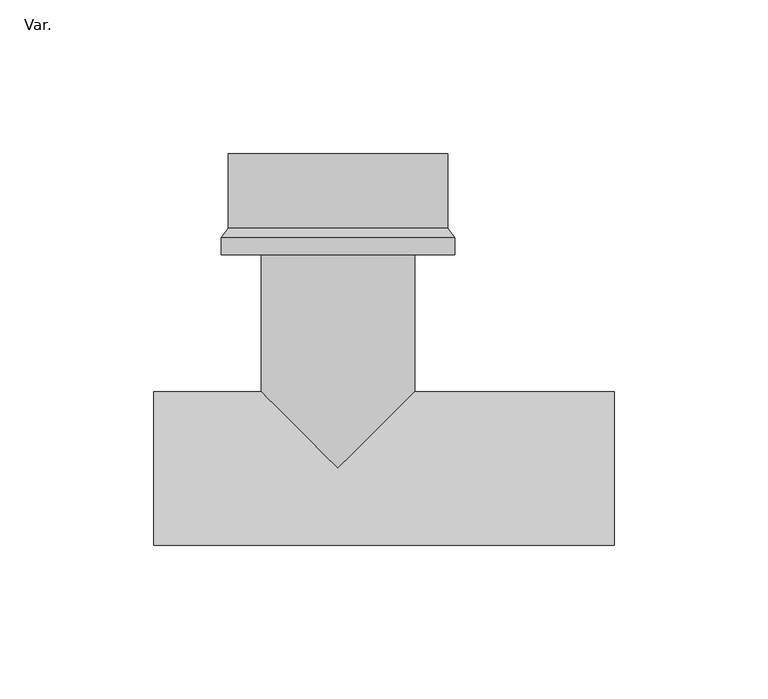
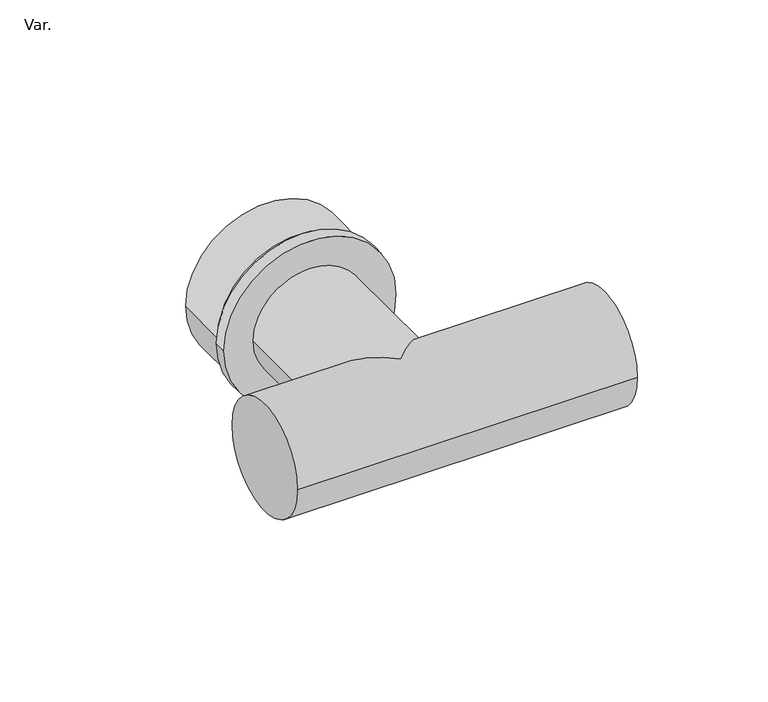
"""IFC4 building model written with IfcOpenShell, lengths in millimetres: pipe fitting geometry, NLRS_52_PIF_UN_HDPE cleanout branch_Akatherm : Var.."""

from ifc_helpers import new_model, si_unit, frame, origin, place, context, project, spatial, polyline, circle_curve, ellipse_curve, source, transform, mapped, element, save
from ifc_brep_helpers import plane_surface, cylinder_surface, revolved_surface, advanced_brep


def var_ad64e43e(model_context):
    return source(origin(), model_context, "Body", "AdvancedBrep", [
        advanced_brep(
        [(90.0, -25.0, 0.0), (90.0, 25.0, 0.0), (-60.0, -25.0, 0.0), (-60.0, 25.0, 0.0), (-25.0, 25.0, 0.0), (0.0, 0.0, -25.0), (25.0, 25.0, 0.0), (0.0, 0.0, 25.0), (25.0, 69.5, 0.0), (-25.0, 69.5, 0.0), (38.0, 69.5, 0.0), (-38.0, 69.5, 0.0), (38.0, 75.1, 0.0), (-38.0, 75.1, 0.0), (35.75, 78.2, 0.0), (-35.75, 78.2, 0.0), (35.75, 102.5, 0.0), (-35.75, 102.5, 0.0)],
        [
            (0, 1, circle_curve(frame((90.0, 0.0, 0.0), z_axis=(1.0, 0.0, 0.0), x_axis=(0.0, 1.0, 0.0)), 25.0)),
            (1, 0, circle_curve(frame((90.0, 0.0, 0.0), z_axis=(1.0, 0.0, 0.0), x_axis=(0.0, 1.0, 0.0)), 25.0)),
            (2, 3, circle_curve(frame((-60.0, 0.0, 0.0), z_axis=(-1.0, 0.0, 0.0), x_axis=(0.0, 1.0, 0.0)), 25.0)),
            (3, 2, circle_curve(frame((-60.0, 0.0, 0.0), z_axis=(-1.0, 0.0, 0.0), x_axis=(0.0, 1.0, 0.0)), 25.0)),
            (0, 2),
            (3, 4),
            (4, 5, ellipse_curve(frame((0.0, 0.0, 0.0), z_axis=(-0.707106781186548, -0.7071067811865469, 0.0), x_axis=(0.7071067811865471, -0.7071067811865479, 0.0)), 35.3553391, 25.0)),
            (5, 6, ellipse_curve(frame((0.0, 0.0, 0.0), z_axis=(0.7071067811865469, -0.707106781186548, 0.0), x_axis=(0.7071067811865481, 0.7071067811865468, 0.0)), 35.3553391, 25.0)),
            (6, 1),
            (6, 7, ellipse_curve(frame((0.0, 0.0, 0.0), z_axis=(0.7071067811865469, -0.707106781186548, 0.0), x_axis=(0.7071067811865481, 0.7071067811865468, 0.0)), 35.3553391, 25.0)),
            (7, 4, ellipse_curve(frame((0.0, 0.0, 0.0), z_axis=(-0.707106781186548, -0.7071067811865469, 0.0), x_axis=(0.7071067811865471, -0.7071067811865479, 0.0)), 35.3553391, 25.0)),
            (6, 8),
            (8, 9, circle_curve(frame((0.0, 69.5, 0.0), z_axis=(0.0, -1.0, 0.0), x_axis=(-1.0, 0.0, 0.0)), 25.0)),
            (9, 4),
            (9, 8, circle_curve(frame((0.0, 69.5, 0.0), z_axis=(0.0, -1.0, 0.0), x_axis=(-1.0, 0.0, 0.0)), 25.0)),
            (10, 11, circle_curve(frame((0.0, 69.5, 0.0), z_axis=(0.0, -1.0, 0.0), x_axis=(-1.0, 0.0, 0.0)), 38.0)),
            (11, 10, circle_curve(frame((0.0, 69.5, 0.0), z_axis=(0.0, -1.0, 0.0), x_axis=(-1.0, 0.0, 0.0)), 38.0)),
            (10, 12),
            (12, 13, circle_curve(frame((0.0, 75.1, 0.0), z_axis=(0.0, -1.0, 0.0), x_axis=(-1.0, 0.0, 0.0)), 38.0)),
            (13, 11),
            (13, 12, circle_curve(frame((0.0, 75.1, 0.0), z_axis=(0.0, -1.0, 0.0), x_axis=(-1.0, 0.0, 0.0)), 38.0)),
            (14, 12),
            (13, 15),
            (15, 14, circle_curve(frame((0.0, 78.2, 0.0), z_axis=(0.0, -1.0, 0.0), x_axis=(-1.0, 0.0, 0.0)), 35.75)),
            (14, 15, circle_curve(frame((0.0, 78.2, 0.0), z_axis=(0.0, -1.0, 0.0), x_axis=(1.0, 0.0, 0.0)), 35.75)),
            (16, 17, circle_curve(frame((0.0, 102.5, 0.0), z_axis=(0.0, 1.0, 0.0), x_axis=(-1.0, 0.0, 0.0)), 35.75)),
            (17, 16, circle_curve(frame((0.0, 102.5, 0.0), z_axis=(0.0, 1.0, 0.0), x_axis=(-1.0, 0.0, 0.0)), 35.75)),
            (17, 15),
            (14, 16),
        ],
        [
            plane_surface(frame((90.0, 25.0, 0.0), z_axis=(1.0, 0.0, 0.0), x_axis=(0.0, 0.0, 1.0))),
            plane_surface(frame((-60.0, 25.0, 0.0), z_axis=(-1.0, 0.0, 0.0), x_axis=(0.0, 0.0, -1.0))),
            cylinder_surface(frame((-60.0, 0.0, 0.0), z_axis=(1.0, 0.0, 0.0), x_axis=(0.0, 1.0, 0.0)), 25.0),
            cylinder_surface(frame((0.0, 0.0, 0.0), z_axis=(0.0, -1.0, 0.0), x_axis=(-1.0, 0.0, 0.0)), 25.0),
            plane_surface(frame((0.0, 69.5, 0.0), z_axis=(0.0, -1.0, 0.0), x_axis=(0.0, 0.0, 1.0))),
            cylinder_surface(frame((0.0, 69.5, 0.0), z_axis=(0.0, -1.0, 0.0), x_axis=(-1.0, 0.0, 0.0)), 38.0),
            revolved_surface(polyline([(35.75000000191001, 78.2, 0.0), (38.0, 75.1, 0.0)]), (0.0, 127.4555556, 0.0), (0.0, -1.0, 0.0)),
            plane_surface(frame((0.0, 102.5, 0.0), z_axis=(0.0, 1.0, 0.0), x_axis=(0.0, 0.0, 1.0))),
            cylinder_surface(frame((0.0, 78.2, 0.0), z_axis=(0.0, -1.0, 0.0), x_axis=(-1.0, 0.0, 0.0)), 35.75),
        ],
        [
            (0, [[1, 2]]),
            (1, [[3, 4]]),
            (2, [[-1, 5, -4, 6, 7, 8, 9]]),
            (2, [[-2, -9, 10, 11, -6, -3, -5]]),
            (3, [[12, 13, 14, -11, -10]]),
            (3, [[-12, -8, -7, -14, 15]]),
            (4, [[16, 17], [-13, -15]]),
            (5, [[-16, 18, 19, 20]]),
            (5, [[-17, -20, 21, -18]]),
            (6, [[22, -21, 23, 24]]),
            (6, [[-22, 25, -23, -19]]),
            (7, [[26, 27]]),
            (8, [[-27, 28, -25, 29]]),
            (8, [[-26, -29, -24, -28]]),
        ],
    ),
    ])


if __name__ == "__main__":
    model = new_model("IFC4")
    model_context = context("Model", 3, world=origin())
    ifc_project = project(units=[si_unit("LENGTHUNIT", "METRE", prefix="MILLI")], contexts=[model_context])
    site = spatial("IfcSite", under=ifc_project)
    building = spatial("IfcBuilding", under=site)
    placement = place(None, origin())
    var_shape = var_ad64e43e(model_context)
    element("IfcPipeFitting", 1, ObjectType="NLRS_52_PIF_UN_HDPE cleanout branch_Akatherm : Var.", at=placement, inside=building, context=model_context, shape_type="MappedRepresentation", body=[
        mapped(var_shape, transform((0.0, 0.0, 0.0), x_axis=(1.0, 0.0, 0.0), y_axis=(0.0, 1.0, 0.0), z_axis=(0.0, 0.0, 1.0))),
    ])
    save(model, "model.ifc")
